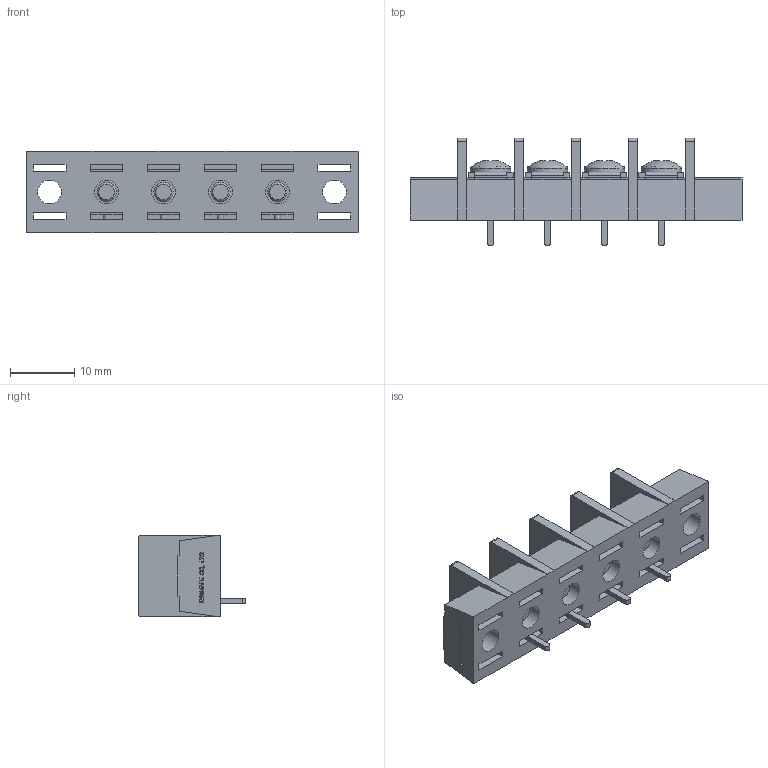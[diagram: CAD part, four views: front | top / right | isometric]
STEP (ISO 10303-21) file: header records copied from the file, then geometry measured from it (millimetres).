
FILE_DESCRIPTION(/* description */ ('Alibre Inc.'),/* implementation_level */ '2;1');
FILE_NAME(/* name */ 'export0',/* time_stamp */ '2015-10-20T08:20:34+09:00',/* author */ (''),/* organization */ (''),/* preprocessor_version */ 'ST-DEVELOPER v14',/* originating_system */ 'Alibre',/* authorisation */ '');
FILE_SCHEMA (('CONFIG_CONTROL_DESIGN'));
Length unit declared in the file: centimetre
Products named in the file (1): ID_1
Bounding box: 51.85 x 16.8 x 12.8 mm (x, y, z)
Volume: 4349.9 mm3; surface area: 5393.7 mm2
Topology: 1 solids, 69 shells, 1536 faces, 3970 edges, 2630 vertices
Faces by surface type: plane 1146, bspline 312, cylinder 46, cone 20, torus 8, sphere 4
Full cylindrical faces by diameter (mm): 3 x8, 3.7 x6, 4.6 x6, 6.3 x4
Entity records: 44767 total; most frequent: CARTESIAN_POINT 10893, ORIENTED_EDGE 7840, DIRECTION 4640, EDGE_CURVE 3920, VECTOR 3040, LINE 3040, VERTEX_POINT 2616, EDGE_LOOP 1698
